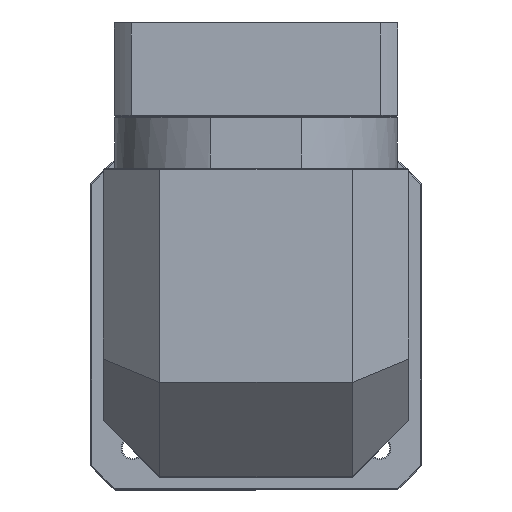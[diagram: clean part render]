
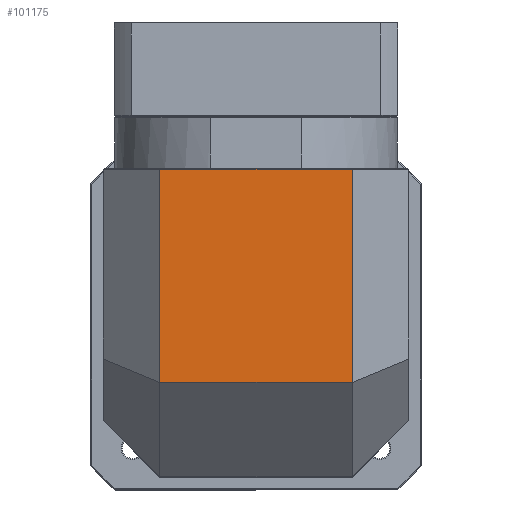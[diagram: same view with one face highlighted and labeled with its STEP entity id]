
A CAD part, top view. The second image highlights one B-rep face of the part: STEP entity #101175.
In plain terms, the highlighted planar face has unit normal (0, 0, 1).
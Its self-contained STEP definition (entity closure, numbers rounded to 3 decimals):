
#6127 = CARTESIAN_POINT ( 'NONE',  ( -135.293, 177.005, 72.483 ) ) ;
#6356 = ORIENTED_EDGE ( 'NONE', *, *, #106505, .T. ) ;
#8450 = DIRECTION ( 'NONE',  ( 0., 1., 0. ) ) ;
#19899 = CARTESIAN_POINT ( 'NONE',  ( -135.293, 95.755, 72.483 ) ) ;
#22638 = VECTOR ( 'NONE', #59071, 1000. ) ;
#27784 = VECTOR ( 'NONE', #66320, 1000. ) ;
#28219 = VERTEX_POINT ( 'NONE', #31660 ) ;
#31366 = FACE_OUTER_BOUND ( 'NONE', #61302, .T. ) ;
#31660 = CARTESIAN_POINT ( 'NONE',  ( -135.293, 64.005, 72.483 ) ) ;
#32390 = CARTESIAN_POINT ( 'NONE',  ( -165.293, 177.005, 72.483 ) ) ;
#39427 = VECTOR ( 'NONE', #83128, 1000. ) ;
#39650 = DIRECTION ( 'NONE',  ( 1., 0., 0. ) ) ;
#41032 = CARTESIAN_POINT ( 'NONE',  ( -165.293, 177.505, 72.483 ) ) ;
#42023 = ORIENTED_EDGE ( 'NONE', *, *, #48662, .T. ) ;
#44267 = VERTEX_POINT ( 'NONE', #112109 ) ;
#48662 = EDGE_CURVE ( 'NONE', #44267, #102675, #55853, .T. ) ;
#50253 = DIRECTION ( 'NONE',  ( 0., 0., -1. ) ) ;
#50943 = LINE ( 'NONE', #32390, #39427 ) ;
#55025 = LINE ( 'NONE', #19899, #76400 ) ;
#55853 = LINE ( 'NONE', #108635, #27784 ) ;
#59071 = DIRECTION ( 'NONE',  ( 1., 0., 0. ) ) ;
#61302 = EDGE_LOOP ( 'NONE', ( #42023, #6356, #87808, #91462 ) ) ;
#62244 = EDGE_CURVE ( 'NONE', #28219, #44267, #101816, .T. ) ;
#64154 = CARTESIAN_POINT ( 'NONE',  ( -33.293, 177.005, 72.483 ) ) ;
#66320 = DIRECTION ( 'NONE',  ( 0., 1., 0. ) ) ;
#74103 = EDGE_CURVE ( 'NONE', #28219, #100444, #55025, .T. ) ;
#76400 = VECTOR ( 'NONE', #8450, 1000. ) ;
#83128 = DIRECTION ( 'NONE',  ( -1., 0., 0. ) ) ;
#87808 = ORIENTED_EDGE ( 'NONE', *, *, #74103, .F. ) ;
#91462 = ORIENTED_EDGE ( 'NONE', *, *, #62244, .T. ) ;
#92612 = PLANE ( 'NONE',  #117966 ) ;
#100444 = VERTEX_POINT ( 'NONE', #6127 ) ;
#101175 = ADVANCED_FACE ( 'NONE', ( #31366 ), #92612, .F. ) ;
#101816 = LINE ( 'NONE', #122074, #22638 ) ;
#102675 = VERTEX_POINT ( 'NONE', #64154 ) ;
#106505 = EDGE_CURVE ( 'NONE', #102675, #100444, #50943, .T. ) ;
#108635 = CARTESIAN_POINT ( 'NONE',  ( -33.293, 177.505, 72.483 ) ) ;
#112109 = CARTESIAN_POINT ( 'NONE',  ( -33.293, 64.005, 72.483 ) ) ;
#117966 = AXIS2_PLACEMENT_3D ( 'NONE', #41032, #50253, #39650 ) ;
#122074 = CARTESIAN_POINT ( 'NONE',  ( -165.293, 64.005, 72.483 ) ) ;
